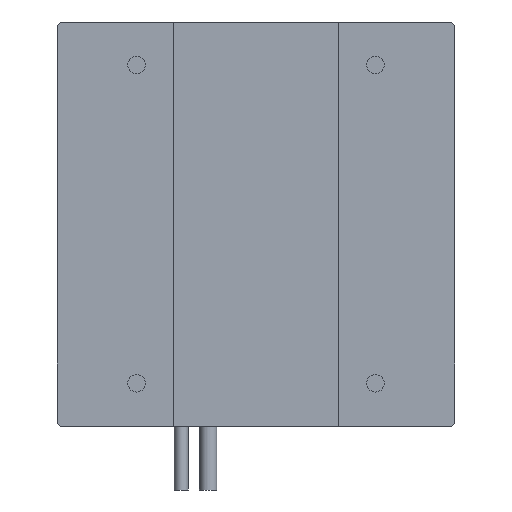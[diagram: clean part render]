
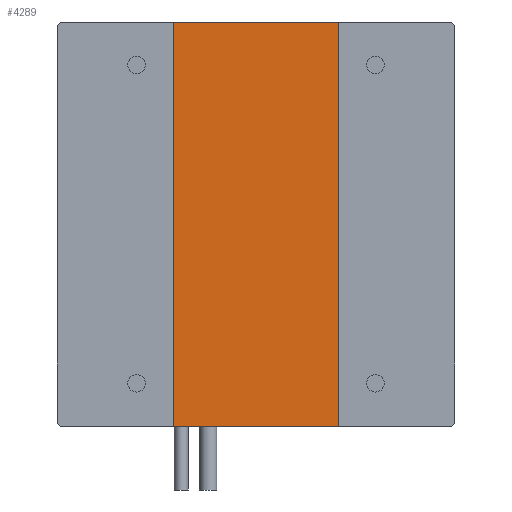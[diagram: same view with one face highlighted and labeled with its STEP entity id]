
A CAD part, front view. The second image highlights one B-rep face of the part: STEP entity #4289.
In plain terms, the highlighted planar face has unit normal (0, -1, 0).
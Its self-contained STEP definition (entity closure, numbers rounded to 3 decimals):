
#85 = CARTESIAN_POINT ( 'NONE',  ( 26., 0.5, 63.5 ) ) ;
#379 = EDGE_CURVE ( 'NONE', #2083, #1925, #3311, .T. ) ;
#753 = EDGE_CURVE ( 'NONE', #2129, #2083, #2628, .T. ) ;
#777 = EDGE_CURVE ( 'NONE', #2940, #1925, #1409, .T. ) ;
#895 = EDGE_LOOP ( 'NONE', ( #1874, #1050, #3712, #3433 ) ) ;
#998 = CARTESIAN_POINT ( 'NONE',  ( -26., 0.5, -115.502 ) ) ;
#1050 = ORIENTED_EDGE ( 'NONE', *, *, #777, .T. ) ;
#1409 = LINE ( 'NONE', #2945, #2910 ) ;
#1523 = CARTESIAN_POINT ( 'NONE',  ( 26., 0.5, -63.5 ) ) ;
#1526 = CARTESIAN_POINT ( 'NONE',  ( -26., 0.5, -63.5 ) ) ;
#1546 = DIRECTION ( 'NONE',  ( -1., 0., 0. ) ) ;
#1614 = VECTOR ( 'NONE', #3410, 1000. ) ;
#1664 = AXIS2_PLACEMENT_3D ( 'NONE', #3818, #3816, #3804 ) ;
#1874 = ORIENTED_EDGE ( 'NONE', *, *, #4509, .T. ) ;
#1925 = VERTEX_POINT ( 'NONE', #2218 ) ;
#2083 = VERTEX_POINT ( 'NONE', #1526 ) ;
#2129 = VERTEX_POINT ( 'NONE', #1523 ) ;
#2218 = CARTESIAN_POINT ( 'NONE',  ( -26., 0.5, 63.5 ) ) ;
#2466 = DIRECTION ( 'NONE',  ( -1., 0., 0. ) ) ;
#2628 = LINE ( 'NONE', #4686, #3685 ) ;
#2910 = VECTOR ( 'NONE', #2466, 1000. ) ;
#2940 = VERTEX_POINT ( 'NONE', #85 ) ;
#2945 = CARTESIAN_POINT ( 'NONE',  ( -26., 0.5, 63.5 ) ) ;
#2983 = DIRECTION ( 'NONE',  ( 0., 0., 1. ) ) ;
#3311 = LINE ( 'NONE', #998, #3476 ) ;
#3410 = DIRECTION ( 'NONE',  ( 0., 0., 1. ) ) ;
#3414 = CARTESIAN_POINT ( 'NONE',  ( 26., 0.5, -115.502 ) ) ;
#3433 = ORIENTED_EDGE ( 'NONE', *, *, #753, .F. ) ;
#3476 = VECTOR ( 'NONE', #2983, 1000. ) ;
#3611 = FACE_OUTER_BOUND ( 'NONE', #895, .T. ) ;
#3685 = VECTOR ( 'NONE', #1546, 1000. ) ;
#3712 = ORIENTED_EDGE ( 'NONE', *, *, #379, .F. ) ;
#3804 = DIRECTION ( 'NONE',  ( 0., 0., 1. ) ) ;
#3816 = DIRECTION ( 'NONE',  ( 0., 1., 0. ) ) ;
#3818 = CARTESIAN_POINT ( 'NONE',  ( -26., 0.5, -115.502 ) ) ;
#3856 = PLANE ( 'NONE',  #1664 ) ;
#4289 = ADVANCED_FACE ( 'NONE', ( #3611 ), #3856, .F. ) ;
#4509 = EDGE_CURVE ( 'NONE', #2129, #2940, #4705, .T. ) ;
#4686 = CARTESIAN_POINT ( 'NONE',  ( -26., 0.5, -63.5 ) ) ;
#4705 = LINE ( 'NONE', #3414, #1614 ) ;
